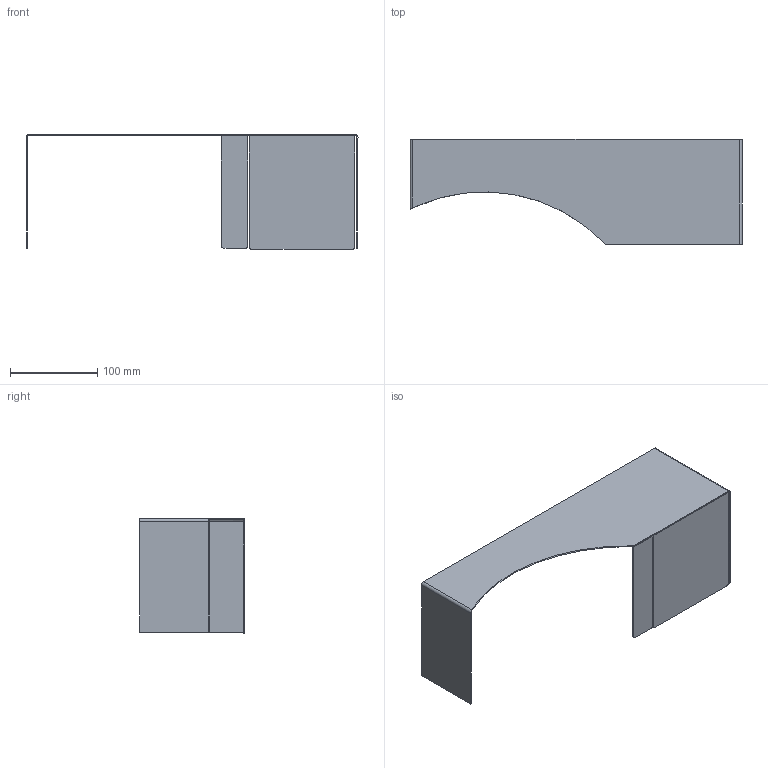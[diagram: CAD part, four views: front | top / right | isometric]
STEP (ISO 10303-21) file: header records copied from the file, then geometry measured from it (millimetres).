
FILE_DESCRIPTION(/* description */ (''),/* implementation_level */ '2;1');
FILE_NAME(/* name */ 'ITMWDX',/* time_stamp */ '2024-12-16T12:08:05+01:00',/* author */ (''),/* organization */ (''),/* preprocessor_version */ 'ST-DEVELOPER v16.5',/* originating_system */ 'Rhino 7.27',/* authorisation */ '');
FILE_SCHEMA (('CONFIG_CONTROL_DESIGN'));
Length unit declared in the file: millimetre
Products named in the file (1): Document
Bounding box: 379.89 x 120 x 131.5 mm (x, y, z)
Volume: 29439.1 mm3; surface area: 162292 mm2
Topology: 2 solids, 3 shells, 28 faces, 76 edges, 52 vertices
Faces by surface type: plane 20, cylinder 8
Entity records: 856 total; most frequent: CARTESIAN_POINT 289, ORIENTED_EDGE 122, EDGE_CURVE 74, VERTEX_POINT 50, B_SPLINE_CURVE_WITH_KNOTS 46, DIRECTION 36, AXIS2_PLACEMENT_3D 32, ADVANCED_FACE 28
